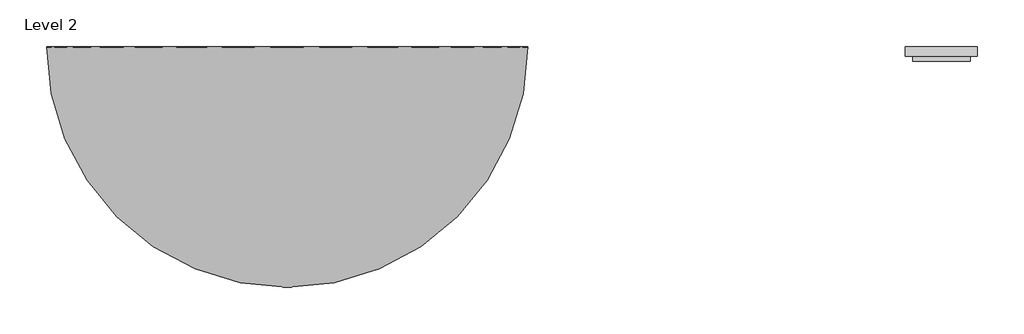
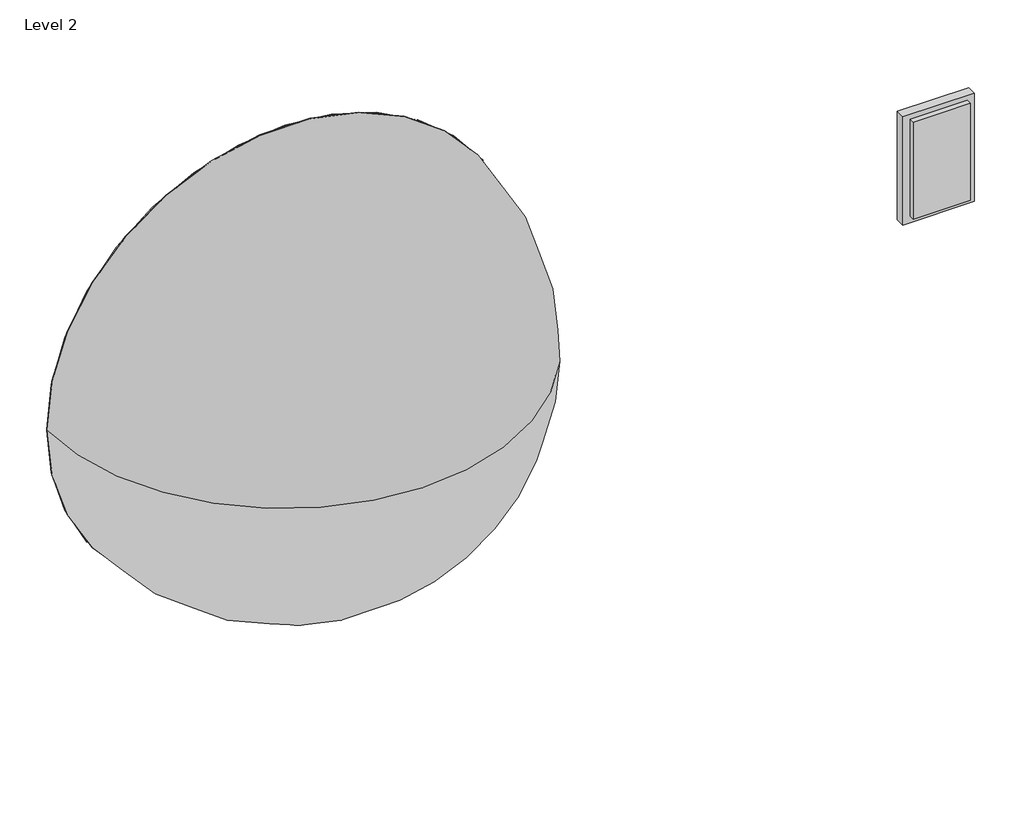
# One storey, incomplete: 2 alarms.
"""IFC4 building model written with IfcOpenShell, lengths in millimetres."""

from ifc_helpers import new_model, si_unit, origin, place, context, project, spatial, transform, mapped, element, save
from components import alarm_4611_f2519d48, alarm_4611_5c380d62, alarm_4620_c619d2b1

model = new_model("IFC4")

# Units and contexts
model_context = context("Model", 3, world=origin())
ifc_project = project(units=[si_unit("LENGTHUNIT", "METRE", prefix="MILLI")], contexts=[model_context])

# Site, building, storey
site = spatial("IfcSite", under=ifc_project)
building = spatial("IfcBuilding", under=site)
storey = spatial("IfcBuildingStorey", under=building, Name="Level 2", Elevation=4000.0)

# Alarms
placement = place(None, origin())
alarm_4611_shape = alarm_4611_f2519d48(model_context)
alarm_4611_2_shape = alarm_4611_5c380d62(model_context)
element("IfcAlarm", 1, ObjectType="4611_Wireless Smoke Detector with Siren : 4611", at=placement, inside=storey, context=model_context, shape_type="MappedRepresentation", body=[
    mapped(alarm_4611_shape, transform((-3402.5746592, 3147.8550077, 930.1151495), x_axis=(1.0, 0.0, 0.0), y_axis=(0.0, 0.0, 1.0), z_axis=(0.0, -1.0, 0.0))),
    mapped(alarm_4611_2_shape, transform((-3402.5746592, 3147.8550077, 930.1151495), x_axis=(1.0, 0.0, 0.0), y_axis=(0.0, 0.0, 1.0), z_axis=(0.0, -1.0, 0.0))),
])
alarm_4620_shape = alarm_4620_c619d2b1(model_context)
element("IfcAlarm", 2, ObjectType="4620_Addressable Base Station for Wireless Units : 4620", at=placement, inside=storey, context=model_context, shape_type="MappedRepresentation", body=[
    mapped(alarm_4620_shape, transform((-2042.5746592, 3147.8550077, 891.3134424), x_axis=(1.0, 0.0, 0.0), y_axis=(0.0, 0.0, 1.0), z_axis=(0.0, -1.0, 0.0))),
])

save(model, "model.ifc")
